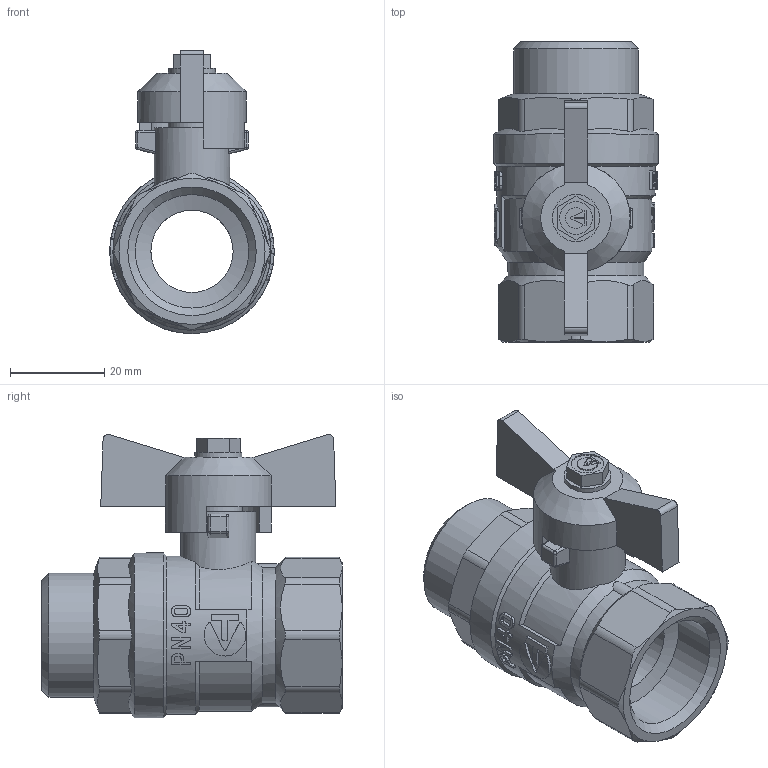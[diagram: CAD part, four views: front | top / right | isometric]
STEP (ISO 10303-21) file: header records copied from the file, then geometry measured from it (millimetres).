
FILE_DESCRIPTION(('STEP AP203'), '1');
FILE_NAME('VT.123.GN.05', '', ('UNSPECIFIED'), ('UNSPECIFIED'), 'C3D Converter', 'C3D Toolkit', '');
FILE_SCHEMA(('CONFIG_CONTROL_DESIGN'));
Length unit declared in the file: millimetre
Products named in the file (1): VT.123.GN.05
Bounding box: 35 x 63.8 x 60.22 mm (x, y, z)
Volume: 38512.4 mm3; surface area: 14927.6 mm2
Topology: 1 solids, 1 shells, 325 faces, 862 edges, 559 vertices
Faces by surface type: plane 178, cylinder 118, cone 21, sphere 8
Full cylindrical faces by diameter (mm): 7 x1, 10 x1, 10.2 x1, 16 x1, 17.5 x1, 20 x1, 24.118 x1, 26.441 x1, 33.6 x1, 35 x1
Entity records: 14054 total; most frequent: CARTESIAN_POINT 6328, ORIENTED_EDGE 1668, DIRECTION 1473, EDGE_CURVE 834, VERTEX_POINT 558, AXIS2_PLACEMENT_3D 524, LINE 425, VECTOR 425
